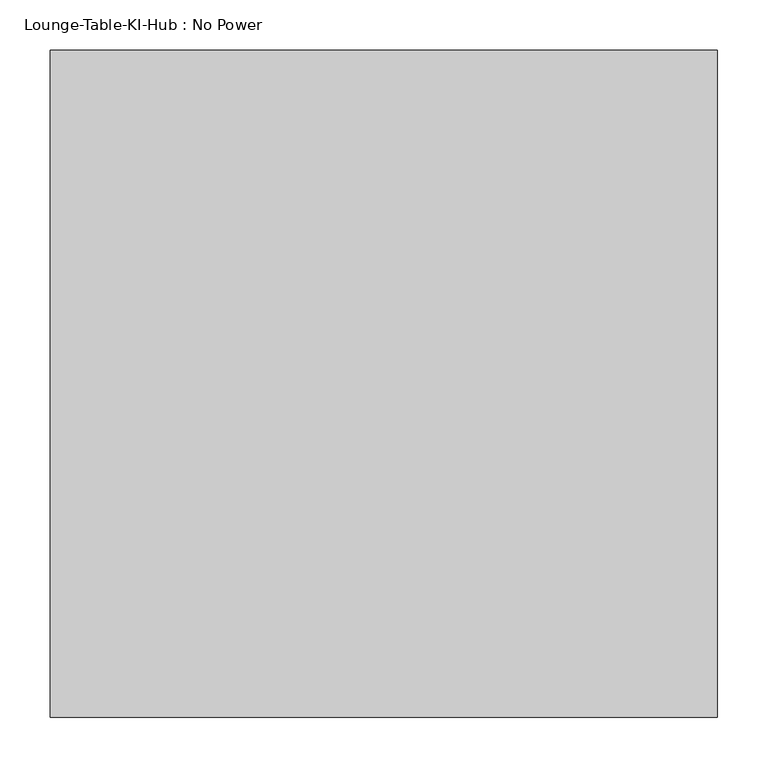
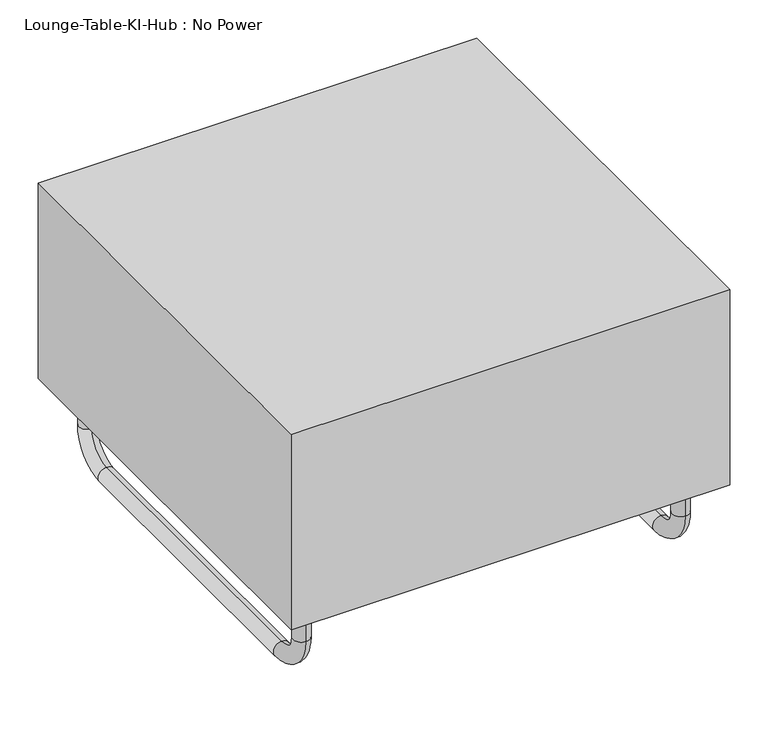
"""IFC4 building model written with IfcOpenShell, lengths in millimetres: furniture geometry, Lounge-Table-KI-Hub : No Power."""

from ifc_helpers import new_model, si_unit, point, frame, origin, place, context, project, spatial, polyline, circle_curve, ellipse_curve, trimmed, outline, extrude, source, transform, mapped, element, save
from ifc_brep_helpers import plane_surface, cylinder_surface, revolved_surface, advanced_brep


def lounge_table_ki_hub_no_power_aac6d2b9(model_context):
    return source(origin(), model_context, "Body", "SolidModel", [
        advanced_brep(
        [(-285.75, -292.1, 120.65), (-285.75, -266.7, 120.65), (-285.75, -292.1, 63.5), (-285.75, -266.7, 63.5), (-285.75, -228.6, 25.4), (-285.75, -228.6, 0.0), (-285.75, 228.6, 0.0), (-285.75, 228.6, 25.4), (-285.75, 266.7, 63.5), (-285.75, 292.1, 63.5), (-285.75, 292.1, 120.65), (-285.75, 266.7, 120.65)],
        [
            (0, 1, circle_curve(frame((-285.75, -279.4, 120.65), z_axis=(0.0, 0.0, 1.0), x_axis=(0.0, 1.0, 0.0)), 12.7)),
            (1, 0, circle_curve(frame((-285.75, -279.4, 120.65), z_axis=(0.0, 0.0, 1.0), x_axis=(0.0, 1.0, 0.0)), 12.7)),
            (0, 2),
            (2, 3, circle_curve(frame((-285.75, -279.4, 63.5), z_axis=(0.0, 0.0, 1.0), x_axis=(0.0, 1.0, 0.0)), 12.7)),
            (3, 1),
            (3, 2, circle_curve(frame((-285.75, -279.4, 63.5), z_axis=(0.0, 0.0, 1.0), x_axis=(0.0, 1.0, 0.0)), 12.7)),
            (4, 3, circle_curve(frame((-285.75, -228.6, 63.5), z_axis=(-1.0, 0.0, 0.0), x_axis=(0.0, -1.0, 0.0)), 38.1)),
            (2, 5, circle_curve(frame((-285.75, -228.6, 63.5), z_axis=(1.0, 0.0, 0.0), x_axis=(0.0, -1.0, 0.0)), 63.5)),
            (5, 4, circle_curve(frame((-285.75, -228.6, 12.7), z_axis=(0.0, -1.0, 0.0), x_axis=(0.0, 0.0, 1.0)), 12.7)),
            (4, 5, circle_curve(frame((-285.75, -228.6, 12.7), z_axis=(0.0, -1.0, 0.0), x_axis=(0.0, 0.0, 1.0)), 12.7)),
            (5, 6),
            (6, 7, circle_curve(frame((-285.75, 228.6, 12.7), z_axis=(0.0, -1.0, 0.0), x_axis=(0.0, 0.0, 1.0)), 12.7)),
            (7, 4),
            (7, 6, circle_curve(frame((-285.75, 228.6, 12.7), z_axis=(0.0, -1.0, 0.0), x_axis=(0.0, 0.0, 1.0)), 12.7)),
            (8, 7, circle_curve(frame((-285.75, 228.6, 63.5), z_axis=(-1.0, 0.0, 0.0), x_axis=(0.0, 0.0, -1.0)), 38.1)),
            (6, 9, circle_curve(frame((-285.75, 228.6, 63.5), z_axis=(1.0, 0.0, 0.0), x_axis=(0.0, 0.0, -1.0)), 63.5)),
            (9, 8, circle_curve(frame((-285.75, 279.4, 63.5), z_axis=(0.0, 0.0, -1.0), x_axis=(0.0, -1.0, 0.0)), 12.7)),
            (8, 9, circle_curve(frame((-285.75, 279.4, 63.5), z_axis=(0.0, 0.0, -1.0), x_axis=(0.0, -1.0, 0.0)), 12.7)),
            (10, 11, circle_curve(frame((-285.75, 279.4, 120.65), z_axis=(0.0, 0.0, 1.0), x_axis=(0.0, -1.0, 0.0)), 12.7)),
            (11, 10, circle_curve(frame((-285.75, 279.4, 120.65), z_axis=(0.0, 0.0, 1.0), x_axis=(0.0, -1.0, 0.0)), 12.7)),
            (9, 10),
            (11, 8),
        ],
        [
            plane_surface(frame((-285.75, -279.4, 120.65), z_axis=(0.0, 0.0, 1.0), x_axis=(1.0, 0.0, 0.0))),
            cylinder_surface(frame((-285.75, -279.4, 120.65), z_axis=(0.0, 0.0, 1.0), x_axis=(0.0, 1.0, 0.0)), 12.7),
            revolved_surface(trimmed(ellipse_curve(frame((-285.75, -279.4, 63.5), z_axis=(0.0, 0.0, 1.0), x_axis=(0.0, 1.0, 0.0)), 12.7, 12.7), [point((-285.75, -292.1, 63.5))], [point((-285.75, -266.7, 63.5))], True, "CARTESIAN"), (-285.75, -228.6, 63.5), (1.0, 0.0, 0.0)),
            revolved_surface(trimmed(ellipse_curve(frame((-285.75, -279.4, 63.5), z_axis=(0.0, 0.0, 1.0), x_axis=(0.0, 1.0, 0.0)), 12.7, 12.7), [point((-285.75, -266.7, 63.5))], [point((-285.75, -292.1, 63.5))], True, "CARTESIAN"), (-285.75, -228.6, 63.5), (1.0, 0.0, 0.0)),
            cylinder_surface(frame((-285.75, -228.6, 12.7), z_axis=(0.0, -1.0, 0.0), x_axis=(0.0, 0.0, 1.0)), 12.7),
            revolved_surface(trimmed(ellipse_curve(frame((-285.75, 228.6, 12.7), z_axis=(0.0, -1.0, 0.0), x_axis=(0.0, 0.0, 1.0)), 12.7, 12.7), [point((-285.75, 228.6, 0.0))], [point((-285.75, 228.6, 25.4))], True, "CARTESIAN"), (-285.75, 228.6, 63.5), (1.0, 0.0, 0.0)),
            revolved_surface(trimmed(ellipse_curve(frame((-285.75, 228.6, 12.7), z_axis=(0.0, -1.0, 0.0), x_axis=(0.0, 0.0, 1.0)), 12.7, 12.7), [point((-285.75, 228.6, 25.4))], [point((-285.75, 228.6, 0.0))], True, "CARTESIAN"), (-285.75, 228.6, 63.5), (1.0, 0.0, 0.0)),
            plane_surface(frame((-285.75, 279.4, 120.65), z_axis=(0.0, 0.0, 1.0), x_axis=(1.0, 0.0, 0.0))),
            cylinder_surface(frame((-285.75, 279.4, 63.5), z_axis=(0.0, 0.0, -1.0), x_axis=(0.0, -1.0, 0.0)), 12.7),
        ],
        [
            (0, [[1, 2]]),
            (1, [[-1, 3, 4, 5]]),
            (1, [[-2, -5, 6, -3]]),
            (2, [[7, -4, 8, 9]]),
            (3, [[-8, -6, -7, 10]]),
            (4, [[-9, 11, 12, 13]]),
            (4, [[-10, -13, 14, -11]]),
            (5, [[15, -12, 16, 17]]),
            (6, [[-16, -14, -15, 18]]),
            (7, [[19, 20]]),
            (8, [[-17, 21, -20, 22]]),
            (8, [[-18, -22, -19, -21]]),
        ],
    ),
        advanced_brep(
        [(285.75, -292.1, 120.65), (285.75, -266.7, 120.65), (285.75, -292.1, 63.5), (285.75, -266.7, 63.5), (285.75, -228.6, 25.4), (285.75, -228.6, 0.0), (285.75, 228.6, 0.0), (285.75, 228.6, 25.4), (285.75, 266.7, 63.5), (285.75, 292.1, 63.5), (285.75, 292.1, 120.65), (285.75, 266.7, 120.65)],
        [
            (0, 1, circle_curve(frame((285.75, -279.4, 120.65), z_axis=(0.0, 0.0, 1.0), x_axis=(0.0, 1.0, 0.0)), 12.7)),
            (1, 0, circle_curve(frame((285.75, -279.4, 120.65), z_axis=(0.0, 0.0, 1.0), x_axis=(0.0, 1.0, 0.0)), 12.7)),
            (0, 2),
            (2, 3, circle_curve(frame((285.75, -279.4, 63.5), z_axis=(0.0, 0.0, 1.0), x_axis=(0.0, 1.0, 0.0)), 12.7)),
            (3, 1),
            (3, 2, circle_curve(frame((285.75, -279.4, 63.5), z_axis=(0.0, 0.0, 1.0), x_axis=(0.0, 1.0, 0.0)), 12.7)),
            (4, 3, circle_curve(frame((285.75, -228.6, 63.5), z_axis=(-1.0, 0.0, 0.0), x_axis=(0.0, -1.0, 0.0)), 38.1)),
            (2, 5, circle_curve(frame((285.75, -228.6, 63.5), z_axis=(1.0, 0.0, 0.0), x_axis=(0.0, -1.0, 0.0)), 63.5)),
            (5, 4, circle_curve(frame((285.75, -228.6, 12.7), z_axis=(0.0, -1.0, 0.0), x_axis=(0.0, 0.0, 1.0)), 12.7)),
            (4, 5, circle_curve(frame((285.75, -228.6, 12.7), z_axis=(0.0, -1.0, 0.0), x_axis=(0.0, 0.0, 1.0)), 12.7)),
            (5, 6),
            (6, 7, circle_curve(frame((285.75, 228.6, 12.7), z_axis=(0.0, -1.0, 0.0), x_axis=(0.0, 0.0, 1.0)), 12.7)),
            (7, 4),
            (7, 6, circle_curve(frame((285.75, 228.6, 12.7), z_axis=(0.0, -1.0, 0.0), x_axis=(0.0, 0.0, 1.0)), 12.7)),
            (8, 7, circle_curve(frame((285.75, 228.6, 63.5), z_axis=(-1.0, 0.0, 0.0), x_axis=(0.0, 0.0, -1.0)), 38.1)),
            (6, 9, circle_curve(frame((285.75, 228.6, 63.5), z_axis=(1.0, 0.0, 0.0), x_axis=(0.0, 0.0, -1.0)), 63.5)),
            (9, 8, circle_curve(frame((285.75, 279.4, 63.5), z_axis=(0.0, 0.0, -1.0), x_axis=(0.0, -1.0, 0.0)), 12.7)),
            (8, 9, circle_curve(frame((285.75, 279.4, 63.5), z_axis=(0.0, 0.0, -1.0), x_axis=(0.0, -1.0, 0.0)), 12.7)),
            (10, 11, circle_curve(frame((285.75, 279.4, 120.65), z_axis=(0.0, 0.0, 1.0), x_axis=(0.0, -1.0, 0.0)), 12.7)),
            (11, 10, circle_curve(frame((285.75, 279.4, 120.65), z_axis=(0.0, 0.0, 1.0), x_axis=(0.0, -1.0, 0.0)), 12.7)),
            (9, 10),
            (11, 8),
        ],
        [
            plane_surface(frame((285.75, -279.4, 120.65), z_axis=(0.0, 0.0, 1.0), x_axis=(1.0, 0.0, 0.0))),
            cylinder_surface(frame((285.75, -279.4, 120.65), z_axis=(0.0, 0.0, 1.0), x_axis=(0.0, 1.0, 0.0)), 12.7),
            revolved_surface(trimmed(ellipse_curve(frame((285.75, -279.4, 63.5), z_axis=(0.0, 0.0, 1.0), x_axis=(0.0, 1.0, 0.0)), 12.7, 12.7), [point((285.75, -292.1, 63.5))], [point((285.75, -266.7, 63.5))], True, "CARTESIAN"), (285.75, -228.6, 63.5), (1.0, 0.0, 0.0)),
            revolved_surface(trimmed(ellipse_curve(frame((285.75, -279.4, 63.5), z_axis=(0.0, 0.0, 1.0), x_axis=(0.0, 1.0, 0.0)), 12.7, 12.7), [point((285.75, -266.7, 63.5))], [point((285.75, -292.1, 63.5))], True, "CARTESIAN"), (285.75, -228.6, 63.5), (1.0, 0.0, 0.0)),
            cylinder_surface(frame((285.75, -228.6, 12.7), z_axis=(0.0, -1.0, 0.0), x_axis=(0.0, 0.0, 1.0)), 12.7),
            revolved_surface(trimmed(ellipse_curve(frame((285.75, 228.6, 12.7), z_axis=(0.0, -1.0, 0.0), x_axis=(0.0, 0.0, 1.0)), 12.7, 12.7), [point((285.75, 228.6, 0.0))], [point((285.75, 228.6, 25.4))], True, "CARTESIAN"), (285.75, 228.6, 63.5), (1.0, 0.0, 0.0)),
            revolved_surface(trimmed(ellipse_curve(frame((285.75, 228.6, 12.7), z_axis=(0.0, -1.0, 0.0), x_axis=(0.0, 0.0, 1.0)), 12.7, 12.7), [point((285.75, 228.6, 25.4))], [point((285.75, 228.6, 0.0))], True, "CARTESIAN"), (285.75, 228.6, 63.5), (1.0, 0.0, 0.0)),
            plane_surface(frame((285.75, 279.4, 120.65), z_axis=(0.0, 0.0, 1.0), x_axis=(1.0, 0.0, 0.0))),
            cylinder_surface(frame((285.75, 279.4, 63.5), z_axis=(0.0, 0.0, -1.0), x_axis=(0.0, -1.0, 0.0)), 12.7),
        ],
        [
            (0, [[1, 2]]),
            (1, [[-1, 3, 4, 5]]),
            (1, [[-2, -5, 6, -3]]),
            (2, [[7, -4, 8, 9]]),
            (3, [[-8, -6, -7, 10]]),
            (4, [[-9, 11, 12, 13]]),
            (4, [[-10, -13, 14, -11]]),
            (5, [[15, -12, 16, 17]]),
            (6, [[-16, -14, -15, 18]]),
            (7, [[19, 20]]),
            (8, [[-17, 21, -20, 22]]),
            (8, [[-18, -22, -19, -21]]),
        ],
    ),
        extrude(outline(polyline([(330.2, 330.2), (330.2, -330.2), (-330.2, -330.2), (-330.2, 330.2), (330.2, 330.2)])), frame((0.0, 0.0, 120.65), z_axis=(0.0, 0.0, 1.0), x_axis=(1.0, 0.0, 0.0)), (0.0, 0.0, 1.0), 311.15),
    ])


if __name__ == "__main__":
    model = new_model("IFC4")
    model_context = context("Model", 3, world=origin())
    ifc_project = project(units=[si_unit("LENGTHUNIT", "METRE", prefix="MILLI")], contexts=[model_context])
    site = spatial("IfcSite", under=ifc_project)
    building = spatial("IfcBuilding", under=site)
    placement = place(None, origin())
    lounge_table_ki_hub_no_power_shape = lounge_table_ki_hub_no_power_aac6d2b9(model_context)
    element("IfcFurniture", 1, ObjectType="Lounge-Table-KI-Hub : No Power", at=placement, inside=building, context=model_context, shape_type="MappedRepresentation", body=[
        mapped(lounge_table_ki_hub_no_power_shape, transform((0.0, 0.0, 0.0), x_axis=(1.0, 0.0, 0.0), y_axis=(0.0, 1.0, 0.0), z_axis=(0.0, 0.0, 1.0))),
    ])
    save(model, "model.ifc")
